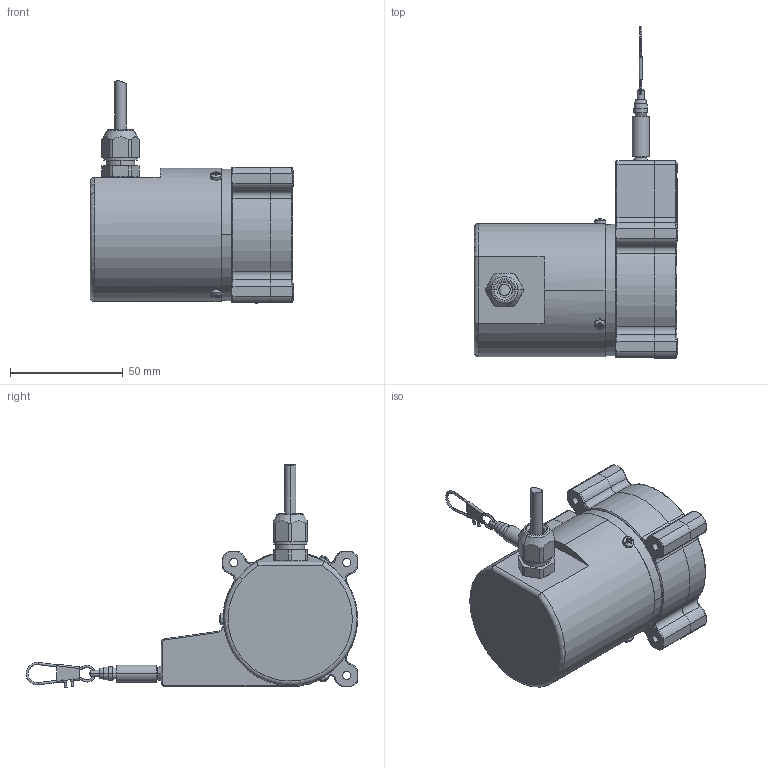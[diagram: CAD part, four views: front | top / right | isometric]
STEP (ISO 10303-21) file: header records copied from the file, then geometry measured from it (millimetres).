
FILE_DESCRIPTION((''),'2;1');
FILE_NAME('WPS-1500-MK60-CR-P_ASM','2016-03-17T',('15000411'),(''),'PRO/ENGINEER BY PARAMETRIC TECHNOLOGY CORPORATION, 2015200','PRO/ENGINEER BY PARAMETRIC TECHNOLOGY CORPORATION, 2015200','');
FILE_SCHEMA(('CONFIG_CONTROL_DESIGN'));
Length unit declared in the file: millimetre
Products named in the file (32): TELESO_BUBINKU_MK60_AF0; TELESO_PRUZINY_MK60_BEZ_LOG_AF0; SEILFUEHRUNGSBUCHSE; KARABINKA18_AF0; LOZISKO_KLUZNE_B_6X8X6_AF0; LOZISKO_KLUZNE_A_JFM-1012-0_AF0; HRIDEL_MK60_MK88_P_DIRA_6I3_AF0; PODLOZKA_VYMEZOVACI_10X16X0_AF0; POJ_KROUZEK_HRIDEL_10_AF0; HRID_TESNENI_10X18X4_AF0; POJ_KROUZEK_HRIDEL_10_AF1; BUBINEK_MK60_KATALOG_O150_AF0; PRUZINA_10X0I15X4800_AF0; STAV_SR_M3X4_IMBUS_CEP_AF0; O_KROUZEK_52X2_AF0; POUZDRO_POTI_PLAST_UPRAVA_P_AF0; SROUB_M2I5X8_BN82428_AF0; SROUB_M2I5X8_BN82428_AF1; SROUB_M2I5X8_BN82428_AF2; PRUCHODKA_KABELU_PLAST_PG7_AF0; MATICE_PRUCHODKY_PLAST_PG7_AF0; KABEL_5; STAV_SR_M3X3_IMBUS_KUZELOVY_AF1; SROUB_SAMOREZ_WN1452_2I5X16; SROUB_SAMOREZ_WN1452_2I5X16_AF0; SROUB_SAMOREZ_WN1452_2I5X16_AF1; SROUB_SAMOREZ_WN1452_2I5X16_AF3; POTENCIOMETR_BOURNS_3549H_AF1; DRZAK_POTI_DRAT_MK60_MK88_AF1; PODLOZKA_M10_OZUBENA_AF1; MATICE_POTENCIOMETRU_AF1; WPS-1500-MK60-CR-P_ASM
Assembly tree (31 placements, depth 2):
  WPS-1500-MK60-CR-P_ASM
    TELESO_BUBINKU_MK60_AF0
    TELESO_PRUZINY_MK60_BEZ_LOG_AF0
    SEILFUEHRUNGSBUCHSE
    KARABINKA18_AF0
    LOZISKO_KLUZNE_B_6X8X6_AF0
    LOZISKO_KLUZNE_A_JFM-1012-0_AF0
    HRIDEL_MK60_MK88_P_DIRA_6I3_AF0
    PODLOZKA_VYMEZOVACI_10X16X0_AF0
    POJ_KROUZEK_HRIDEL_10_AF0
    HRID_TESNENI_10X18X4_AF0
    POJ_KROUZEK_HRIDEL_10_AF1
    BUBINEK_MK60_KATALOG_O150_AF0
    PRUZINA_10X0I15X4800_AF0
    STAV_SR_M3X4_IMBUS_CEP_AF0
    O_KROUZEK_52X2_AF0
    POUZDRO_POTI_PLAST_UPRAVA_P_AF0
    SROUB_M2I5X8_BN82428_AF0
    SROUB_M2I5X8_BN82428_AF1
    SROUB_M2I5X8_BN82428_AF2
    PRUCHODKA_KABELU_PLAST_PG7_AF0
    MATICE_PRUCHODKY_PLAST_PG7_AF0
    KABEL_5
    STAV_SR_M3X3_IMBUS_KUZELOVY_AF1
    SROUB_SAMOREZ_WN1452_2I5X16
    SROUB_SAMOREZ_WN1452_2I5X16_AF0
    SROUB_SAMOREZ_WN1452_2I5X16_AF1
    SROUB_SAMOREZ_WN1452_2I5X16_AF3
    POTENCIOMETR_BOURNS_3549H_AF1
    DRZAK_POTI_DRAT_MK60_MK88_AF1
    PODLOZKA_M10_OZUBENA_AF1
    MATICE_POTENCIOMETRU_AF1
Bounding box: 90.3 x 146.99 x 98.55 mm (x, y, z)
Volume: 51059.4 mm3; surface area: 58375 mm2
Topology: 14 solids, 15 shells, 1168 faces, 3053 edges, 1959 vertices
Faces by surface type: plane 720, cylinder 286, torus 79, cone 64, bspline 10, sphere 8, extrusion 1
Entity records: 38128 total; most frequent: CARTESIAN_POINT 8295, DIRECTION 6209, ORIENTED_EDGE 6086, EDGE_CURVE 3043, AXIS2_PLACEMENT_3D 2093, VECTOR 2023, LINE 2022, VERTEX_POINT 1959
